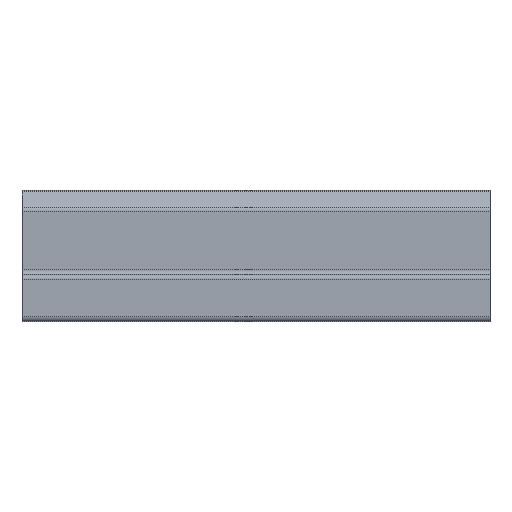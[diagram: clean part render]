
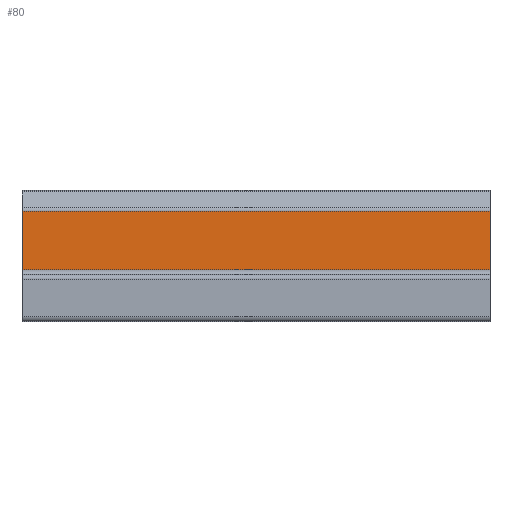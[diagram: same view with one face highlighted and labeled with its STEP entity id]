
A CAD part, top view. The second image highlights one B-rep face of the part: STEP entity #80.
In plain terms, the highlighted planar face has unit normal (0, 0, 1).
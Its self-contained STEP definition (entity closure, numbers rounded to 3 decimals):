
#80=ADVANCED_FACE('',(#173),#174,.F.);
#173=FACE_OUTER_BOUND('',#276,.T.);
#174=PLANE('',#277);
#276=EDGE_LOOP('',(#459,#460,#461,#462));
#277=AXIS2_PLACEMENT_3D('',#463,#464,#465);
#459=ORIENTED_EDGE('',*,*,#693,.T.);
#460=ORIENTED_EDGE('',*,*,#653,.F.);
#461=ORIENTED_EDGE('',*,*,#717,.F.);
#462=ORIENTED_EDGE('',*,*,#646,.T.);
#463=CARTESIAN_POINT('',(0.,-3.4,4.));
#464=DIRECTION('',(0.0,0.0,-1.0));
#465=DIRECTION('',(1.0,0.0,0.0));
#646=EDGE_CURVE('',#770,#768,#771,.T.);
#653=EDGE_CURVE('',#781,#776,#783,.T.);
#693=EDGE_CURVE('',#768,#776,#849,.T.);
#717=EDGE_CURVE('',#770,#781,#888,.T.);
#768=VERTEX_POINT('',#950);
#770=VERTEX_POINT('',#952);
#771=LINE('',#953,#954);
#776=VERTEX_POINT('',#960);
#781=VERTEX_POINT('',#966);
#783=LINE('',#968,#969);
#849=LINE('',#1059,#1060);
#888=LINE('',#1114,#1115);
#950=CARTESIAN_POINT('',(50.0,-3.4,4.));
#952=CARTESIAN_POINT('',(0.,-3.4,4.));
#953=CARTESIAN_POINT('',(0.,-3.4,4.));
#954=VECTOR('',#1201,1.0);
#960=CARTESIAN_POINT('',(50.0,2.893,4.));
#966=CARTESIAN_POINT('',(0.,2.893,4.));
#968=CARTESIAN_POINT('',(0.,2.893,4.));
#969=VECTOR('',#1213,1.0);
#1059=CARTESIAN_POINT('',(50.0,-3.4,4.));
#1060=VECTOR('',#1256,1.0);
#1114=CARTESIAN_POINT('',(0.,-3.4,4.));
#1115=VECTOR('',#1290,1.0);
#1201=DIRECTION('',(1.0,0.0,0.0));
#1213=DIRECTION('',(1.0,0.0,0.0));
#1256=DIRECTION('',(0.0,1.0,0.0));
#1290=DIRECTION('',(0.0,1.0,0.0));
